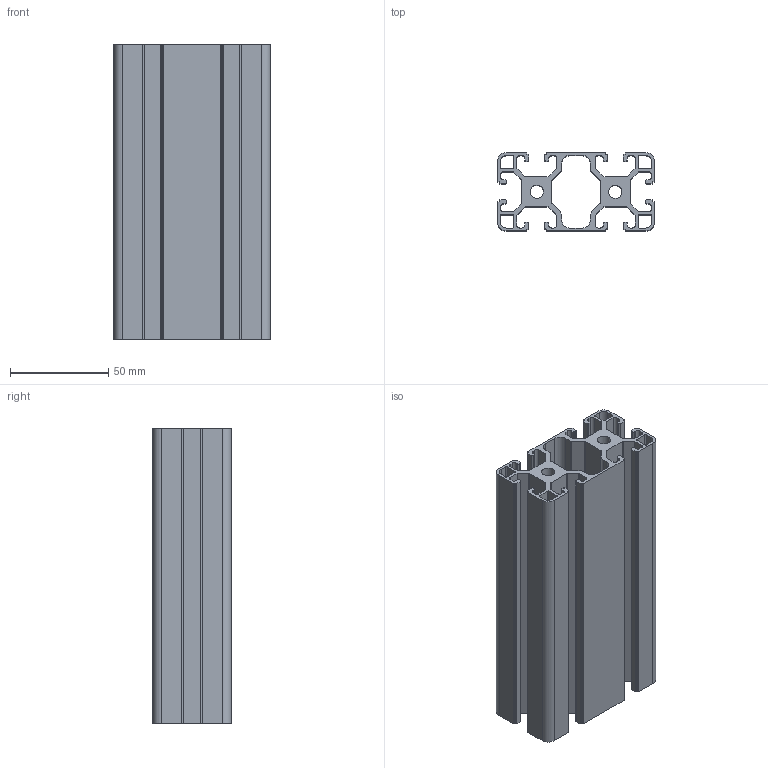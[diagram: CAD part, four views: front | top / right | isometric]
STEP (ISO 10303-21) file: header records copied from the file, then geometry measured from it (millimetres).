
FILE_DESCRIPTION((''),'2;1');
FILE_NAME('E:\catalogue and flyer\Profile catalogue 2015\profile-step file,31MAr16\PS4080L-8.stp','2016-03-31T14:11:19',('h029'),(''),'Autodesk Inventor 11','Autodesk Inventor 11','');
FILE_SCHEMA(('AUTOMOTIVE_DESIGN { 1 0 10303 214 1 1 1 1 }'));
Length unit declared in the file: millimetre
Products named in the file (1): ps4080L-8
Bounding box: 80 x 40 x 150 mm (x, y, z)
Volume: 153256 mm3; surface area: 120989.1 mm2
Topology: 1 solids, 1 shells, 272 faces, 810 edges, 540 vertices
Faces by surface type: plane 142, cylinder 130
Full cylindrical faces by diameter (mm): 6.8 x2
Entity records: 9235 total; most frequent: CARTESIAN_POINT 1621, ORIENTED_EDGE 1616, DIRECTION 1614, EDGE_CURVE 808, VECTOR 548, LINE 548, VERTEX_POINT 540, AXIS2_PLACEMENT_3D 533
